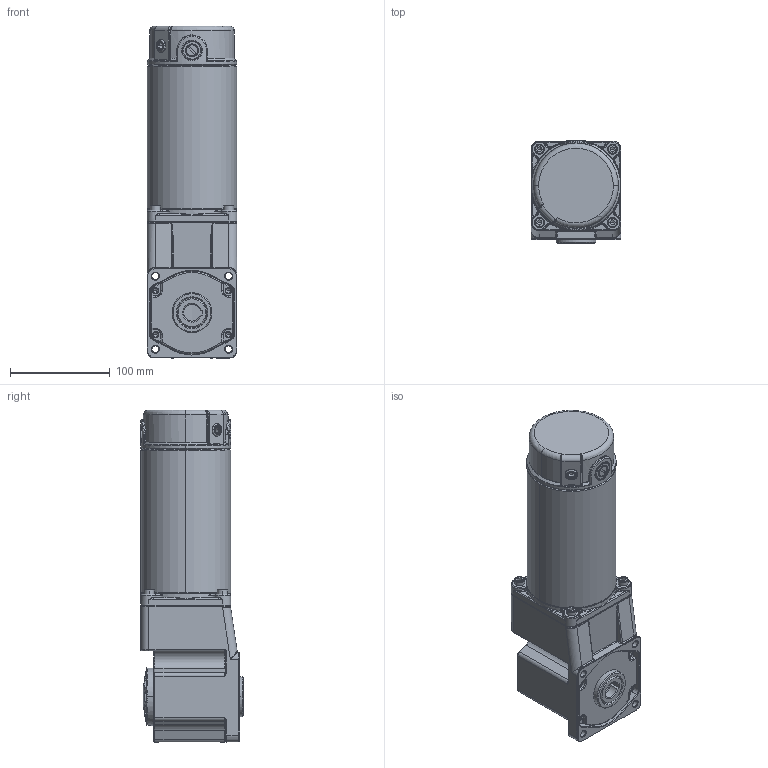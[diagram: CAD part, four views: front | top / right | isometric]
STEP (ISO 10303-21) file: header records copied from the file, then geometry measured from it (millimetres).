
FILE_DESCRIPTION (( 'STEP AP214' ), '1' );
FILE_NAME ('Íâ¾¶90-145»ú¿ÇRC.STEP', '2021-07-23T08:04:44', ( '' ), ( '' ), 'SwSTEP 2.0', 'SolidWorks 2021', '' );
FILE_SCHEMA (( 'AUTOMOTIVE_DESIGN' ));
Length unit declared in the file: millimetre
Products named in the file (8): L_2; 俋噤90-145儂褲RC; PRT0001_2; T_2; 5RC_4; PRT0002_1_2; PRT0003_1_2; Z55D-300W-L_1_3
Assembly tree (9 placements, depth 3):
  俋噤90-145儂褲RC
    Z55D-300W-L_1_3
      L_2  x2
      PRT0001_2
      T_2  x2
      PRT0003_1_2
      PRT0002_1_2
    5RC_4
Bounding box: 90 x 102.5 x 333.5 mm (x, y, z)
Volume: 1052669 mm3; surface area: 291487.5 mm2
Topology: 22 solids, 24 shells, 2380 faces, 5730 edges, 3381 vertices
Faces by surface type: cylinder 668, plane 534, cone 432, torus 367, bspline 295, sphere 84
Entity records: 101422 total; most frequent: CARTESIAN_POINT 50424, ORIENTED_EDGE 11088, DIRECTION 9947, EDGE_CURVE 5544, AXIS2_PLACEMENT_3D 4103, VERTEX_POINT 3306, EDGE_LOOP 2440, ADVANCED_FACE 2332
